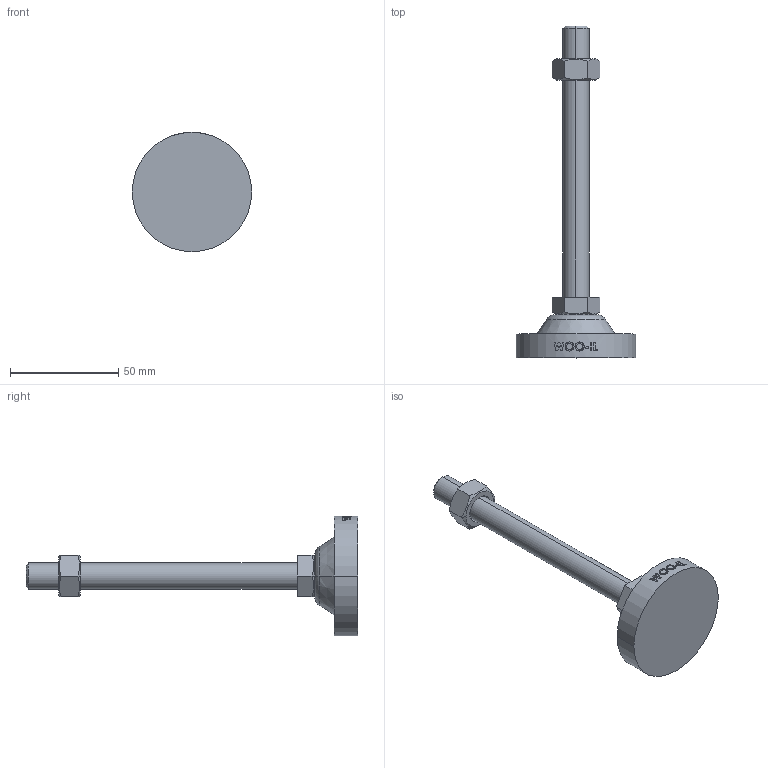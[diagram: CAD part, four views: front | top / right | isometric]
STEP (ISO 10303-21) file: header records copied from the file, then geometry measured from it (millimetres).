
FILE_DESCRIPTION (( 'STEP AP214' ), '1' );
FILE_NAME ('RB55-M12-125.step', '2021-01-18T05:49:01', ( '' ), ( '' ), 'SwSTEP 2.0', 'SolidWorks 2019', '' );
FILE_SCHEMA (( 'AUTOMOTIVE_DESIGN' ));
Length unit declared in the file: millimetre
Products named in the file (2): RB55-M12-125
Bounding box: 55 x 153 x 55 mm (x, y, z)
Volume: 48100.6 mm3; surface area: 15359.4 mm2
Topology: 2 solids, 3 shells, 128 faces, 317 edges, 206 vertices
Faces by surface type: plane 48, cylinder 42, bspline 18, cone 16, torus 4
Entity records: 5349 total; most frequent: CARTESIAN_POINT 2507, ORIENTED_EDGE 634, DIRECTION 479, EDGE_CURVE 317, VERTEX_POINT 206, AXIS2_PLACEMENT_3D 176, EDGE_LOOP 141, ADVANCED_FACE 128
